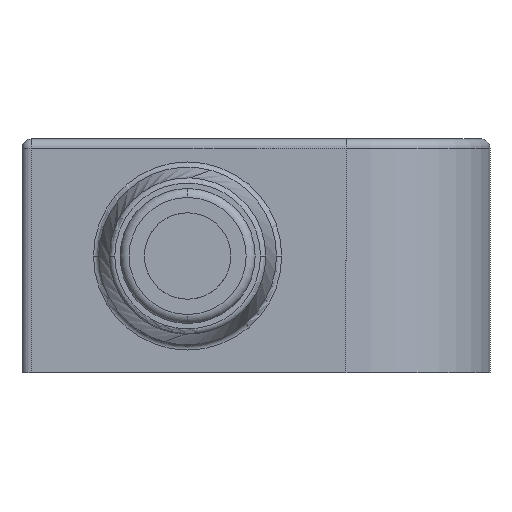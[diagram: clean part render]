
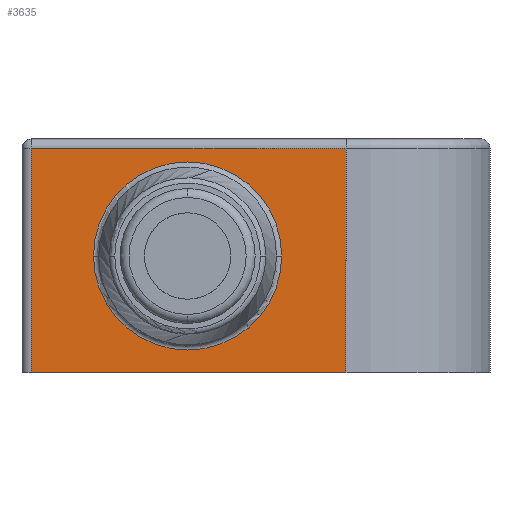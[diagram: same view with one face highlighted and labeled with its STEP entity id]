
A CAD part, left-side view. The second image highlights one B-rep face of the part: STEP entity #3635.
In plain terms, the highlighted planar face has unit normal (-1, 0, 0).
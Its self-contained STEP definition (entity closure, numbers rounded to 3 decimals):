
#20 = VECTOR ( 'NONE', #3941, 1000. ) ;
#493 = CIRCLE ( 'NONE', #7011, 5.227 ) ;
#555 = LINE ( 'NONE', #3020, #10633 ) ;
#600 = PLANE ( 'NONE',  #969 ) ;
#969 = AXIS2_PLACEMENT_3D ( 'NONE', #11250, #1477, #2282 ) ;
#1018 = CARTESIAN_POINT ( 'NONE',  ( 0., -9.2, 6.5 ) ) ;
#1133 = DIRECTION ( 'NONE',  ( 0., 1., 0. ) ) ;
#1454 = DIRECTION ( 'NONE',  ( 0., 1., 0. ) ) ;
#1457 = CARTESIAN_POINT ( 'NONE',  ( 0., -18., 12.5 ) ) ;
#1469 = EDGE_CURVE ( 'NONE', #10337, #3190, #6231, .T. ) ;
#1477 = DIRECTION ( 'NONE',  ( 1., 0., 0. ) ) ;
#2019 = VERTEX_POINT ( 'NONE', #5199 ) ;
#2282 = DIRECTION ( 'NONE',  ( 0., 1., 0. ) ) ;
#2398 = LINE ( 'NONE', #3037, #20 ) ;
#2409 = EDGE_CURVE ( 'NONE', #3190, #10337, #493, .T. ) ;
#2835 = FACE_BOUND ( 'NONE', #5375, .T. ) ;
#2895 = VERTEX_POINT ( 'NONE', #3466 ) ;
#3020 = CARTESIAN_POINT ( 'NONE',  ( 0., 0., 0. ) ) ;
#3037 = CARTESIAN_POINT ( 'NONE',  ( 0., -18., 13. ) ) ;
#3190 = VERTEX_POINT ( 'NONE', #4498 ) ;
#3360 = CARTESIAN_POINT ( 'NONE',  ( 0., 0., 12.5 ) ) ;
#3466 = CARTESIAN_POINT ( 'NONE',  ( 0., -0.5, 12.5 ) ) ;
#3524 = FACE_OUTER_BOUND ( 'NONE', #4808, .T. ) ;
#3635 = ADVANCED_FACE ( 'NONE', ( #2835, #3524 ), #600, .F. ) ;
#3710 = DIRECTION ( 'NONE',  ( 0., 1., 0. ) ) ;
#3941 = DIRECTION ( 'NONE',  ( 0., 0., 1. ) ) ;
#4000 = CARTESIAN_POINT ( 'NONE',  ( 0., -9.2, 6.5 ) ) ;
#4054 = VECTOR ( 'NONE', #5104, 1000. ) ;
#4498 = CARTESIAN_POINT ( 'NONE',  ( 0., -14.427, 6.5 ) ) ;
#4808 = EDGE_LOOP ( 'NONE', ( #9094, #7599, #5719, #9945 ) ) ;
#4904 = LINE ( 'NONE', #10477, #4054 ) ;
#4910 = DIRECTION ( 'NONE',  ( 1., 0., 0. ) ) ;
#5104 = DIRECTION ( 'NONE',  ( 0., 0., -1. ) ) ;
#5199 = CARTESIAN_POINT ( 'NONE',  ( 0., -0.5, 0. ) ) ;
#5363 = EDGE_CURVE ( 'NONE', #2895, #2019, #4904, .T. ) ;
#5375 = EDGE_LOOP ( 'NONE', ( #7671, #6380 ) ) ;
#5719 = ORIENTED_EDGE ( 'NONE', *, *, #5363, .T. ) ;
#6231 = CIRCLE ( 'NONE', #7882, 5.227 ) ;
#6380 = ORIENTED_EDGE ( 'NONE', *, *, #1469, .T. ) ;
#6502 = VERTEX_POINT ( 'NONE', #9383 ) ;
#6895 = EDGE_CURVE ( 'NONE', #2019, #6502, #555, .T. ) ;
#7011 = AXIS2_PLACEMENT_3D ( 'NONE', #4000, #4910, #1133 ) ;
#7017 = VECTOR ( 'NONE', #1454, 1000. ) ;
#7599 = ORIENTED_EDGE ( 'NONE', *, *, #11132, .T. ) ;
#7671 = ORIENTED_EDGE ( 'NONE', *, *, #2409, .T. ) ;
#7882 = AXIS2_PLACEMENT_3D ( 'NONE', #1018, #8180, #3710 ) ;
#8180 = DIRECTION ( 'NONE',  ( 1., 0., 0. ) ) ;
#8443 = CARTESIAN_POINT ( 'NONE',  ( 0., -3.973, 6.5 ) ) ;
#8681 = VERTEX_POINT ( 'NONE', #1457 ) ;
#9094 = ORIENTED_EDGE ( 'NONE', *, *, #11518, .T. ) ;
#9296 = DIRECTION ( 'NONE',  ( 0., -1., 0. ) ) ;
#9383 = CARTESIAN_POINT ( 'NONE',  ( 0., -18., 0. ) ) ;
#9945 = ORIENTED_EDGE ( 'NONE', *, *, #6895, .T. ) ;
#10267 = LINE ( 'NONE', #3360, #7017 ) ;
#10337 = VERTEX_POINT ( 'NONE', #8443 ) ;
#10477 = CARTESIAN_POINT ( 'NONE',  ( 0., -0.5, 13. ) ) ;
#10633 = VECTOR ( 'NONE', #9296, 1000. ) ;
#11132 = EDGE_CURVE ( 'NONE', #8681, #2895, #10267, .T. ) ;
#11250 = CARTESIAN_POINT ( 'NONE',  ( 0., 0., 13. ) ) ;
#11518 = EDGE_CURVE ( 'NONE', #6502, #8681, #2398, .T. ) ;
